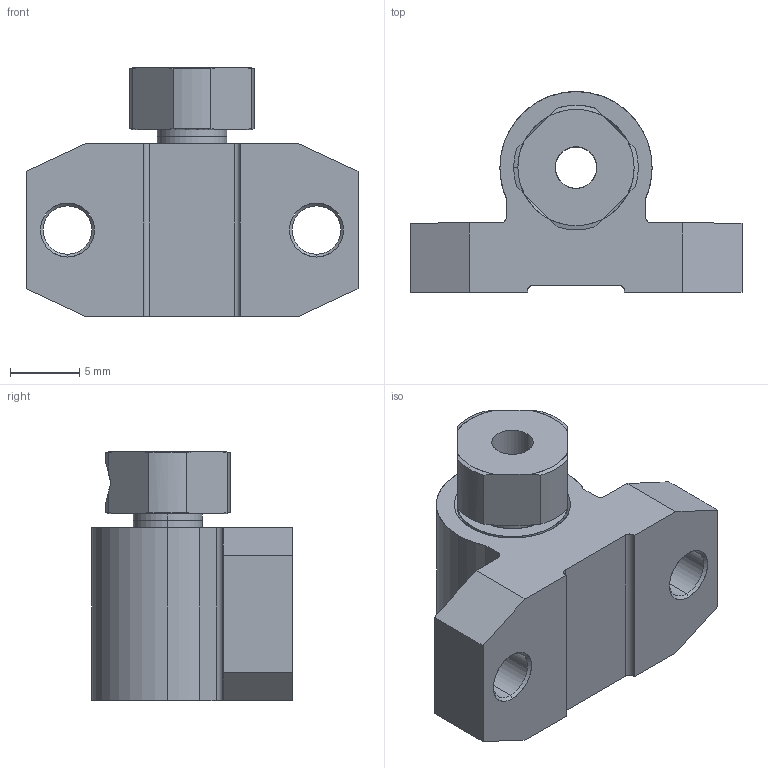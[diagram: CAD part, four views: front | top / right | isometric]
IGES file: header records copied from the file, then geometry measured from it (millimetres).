
Start section: SolidWorks IGES file using analytic representation for surfaces
Global section: file name: C:\Users\watanabe\Desktop\MSU-3\MSU3C.IGS; native system: SolidWorks 2010; preprocessor: SolidWorks 2010; author: watanabe; date: 120613.114022; units: millimetre
Bounding box: 24 x 14.5 x 18 mm (x, y, z)
Surface area: 2581.1 mm2 (no closed solid volume)
Topology: 0 solids, 0 shells, 125 faces, 1642 edges, 1642 vertices
Faces by surface type: revolution 65, bspline 60
